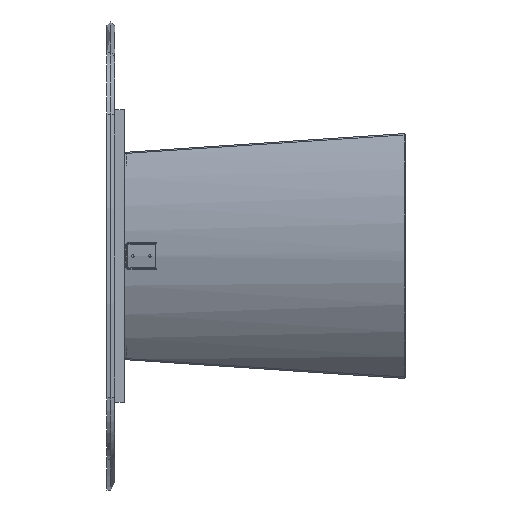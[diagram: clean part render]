
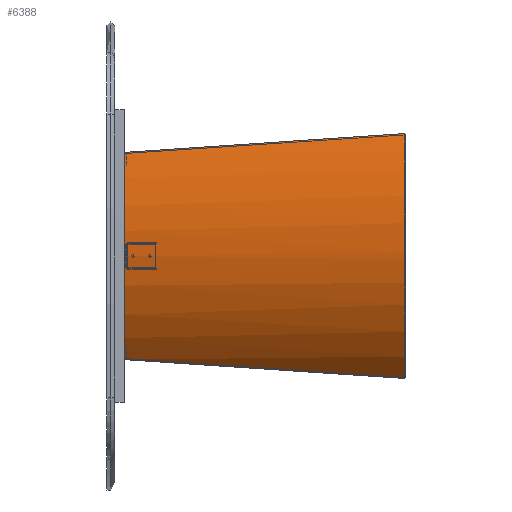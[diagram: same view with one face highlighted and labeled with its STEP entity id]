
A CAD part, left-side view. The second image highlights one B-rep face of the part: STEP entity #6388.
In plain terms, the highlighted cylindrical face has radius 455 mm (diameter 910 mm), a partial arc.
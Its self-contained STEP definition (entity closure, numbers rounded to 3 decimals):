
#45 = CARTESIAN_POINT ( 'NONE',  ( 314.022, 0.906, -129.942 ) ) ;
#71 = CARTESIAN_POINT ( 'NONE',  ( 0., 690.447, -648.367 ) ) ;
#232 = DIRECTION ( 'NONE',  ( 0., -0.968, 0.25 ) ) ;
#301 = ORIENTED_EDGE ( 'NONE', *, *, #1120, .T. ) ;
#322 = CARTESIAN_POINT ( 'NONE',  ( 265.753, 720., -274.535 ) ) ;
#832 =( BOUNDED_CURVE ( )  B_SPLINE_CURVE ( 3, ( #322, #7765, #8633, #8516 ),
 .UNSPECIFIED., .F., .T. ) 
 B_SPLINE_CURVE_WITH_KNOTS ( ( 4, 4 ),
 ( 5.659, 6.283 ),
 .UNSPECIFIED. ) 
 CURVE ( )  GEOMETRIC_REPRESENTATION_ITEM ( )  RATIONAL_B_SPLINE_CURVE ( ( 1., 0.968, 0.968, 1. ) ) 
 REPRESENTATION_ITEM ( '' )  );
#883 = CARTESIAN_POINT ( 'NONE',  ( 314.022, 0.906, -129.942 ) ) ;
#899 = ORIENTED_EDGE ( 'NONE', *, *, #8043, .F. ) ;
#1050 = CYLINDRICAL_SURFACE ( 'NONE', #6962, 455. ) ;
#1062 = CARTESIAN_POINT ( 'NONE',  ( -314.022, 0.906, -129.942 ) ) ;
#1120 = EDGE_CURVE ( 'NONE', #9637, #9467, #4703, .T. ) ;
#1370 =( BOUNDED_CURVE ( )  B_SPLINE_CURVE ( 3, ( #883, #8323, #2736, #5124 ),
 .UNSPECIFIED., .F., .T. ) 
 B_SPLINE_CURVE_WITH_KNOTS ( ( 4, 4 ),
 ( 1.582, 1.719 ),
 .UNSPECIFIED. ) 
 CURVE ( )  GEOMETRIC_REPRESENTATION_ITEM ( )  RATIONAL_B_SPLINE_CURVE ( ( 1., 0.998, 0.998, 1. ) ) 
 REPRESENTATION_ITEM ( '' )  );
#1766 = CARTESIAN_POINT ( 'NONE',  ( 0., -112.631, -440.677 ) ) ;
#1931 = EDGE_CURVE ( 'NONE', #6868, #4155, #8793, .T. ) ;
#2595 = ORIENTED_EDGE ( 'NONE', *, *, #4667, .F. ) ;
#2618 = EDGE_LOOP ( 'NONE', ( #10650, #301, #899, #3280, #2595, #5393, #9632 ) ) ;
#2705 =( BOUNDED_CURVE ( )  B_SPLINE_CURVE ( 3, ( #1062, #6819, #8559, #4380 ),
 .UNSPECIFIED., .F., .T. ) 
 B_SPLINE_CURVE_WITH_KNOTS ( ( 4, 4 ),
 ( 1.582, 1.719 ),
 .UNSPECIFIED. ) 
 CURVE ( )  GEOMETRIC_REPRESENTATION_ITEM ( )  RATIONAL_B_SPLINE_CURVE ( ( 1., 0.998, 0.998, 1. ) ) 
 REPRESENTATION_ITEM ( '' )  );
#2715 = CARTESIAN_POINT ( 'NONE',  ( 265.753, 720., -274.535 ) ) ;
#2736 = CARTESIAN_POINT ( 'NONE',  ( 282.752, 482.074, -225.637 ) ) ;
#2800 = EDGE_CURVE ( 'NONE', #4155, #5675, #1370, .T. ) ;
#2840 = VERTEX_POINT ( 'NONE', #7666 ) ;
#3248 = CARTESIAN_POINT ( 'NONE',  ( -265.753, 720., -274.535 ) ) ;
#3280 = ORIENTED_EDGE ( 'NONE', *, *, #5207, .T. ) ;
#3371 = CARTESIAN_POINT ( 'NONE',  ( 231.469, 1.123, -48.677 ) ) ;
#3496 = CARTESIAN_POINT ( 'NONE',  ( -231.469, 1.123, -48.677 ) ) ;
#3597 =( BOUNDED_CURVE ( )  B_SPLINE_CURVE ( 3, ( #10062, #3496, #6210, #3617 ),
 .UNSPECIFIED., .F., .F. ) 
 B_SPLINE_CURVE_WITH_KNOTS ( ( 4, 4 ),
 ( 5.521, 6.257 ),
 .UNSPECIFIED. ) 
 CURVE ( )  GEOMETRIC_REPRESENTATION_ITEM ( )  RATIONAL_B_SPLINE_CURVE ( ( 1., 0.955, 0.955, 1. ) ) 
 REPRESENTATION_ITEM ( '' )  );
#3617 = CARTESIAN_POINT ( 'NONE',  ( -12.104, 1.251, -0.325 ) ) ;
#3965 = CARTESIAN_POINT ( 'NONE',  ( -12.104, 1.251, -0.325 ) ) ;
#4138 = CARTESIAN_POINT ( 'NONE',  ( 12.104, 1.251, -0.325 ) ) ;
#4155 = VERTEX_POINT ( 'NONE', #6827 ) ;
#4362 = CARTESIAN_POINT ( 'NONE',  ( -265.753, 720., -274.535 ) ) ;
#4380 = CARTESIAN_POINT ( 'NONE',  ( -265.753, 720., -274.535 ) ) ;
#4387 = AXIS2_PLACEMENT_3D ( 'NONE', #1766, #5088, #8397 ) ;
#4667 = EDGE_CURVE ( 'NONE', #6868, #5891, #8202, .T. ) ;
#4703 =( BOUNDED_CURVE ( )  B_SPLINE_CURVE ( 3, ( #7563, #5182, #5021, #4362 ),
 .UNSPECIFIED., .F., .T. ) 
 B_SPLINE_CURVE_WITH_KNOTS ( ( 4, 4 ),
 ( 0., 0.624 ),
 .UNSPECIFIED. ) 
 CURVE ( )  GEOMETRIC_REPRESENTATION_ITEM ( )  RATIONAL_B_SPLINE_CURVE ( ( 1., 0.968, 0.968, 1. ) ) 
 REPRESENTATION_ITEM ( '' )  );
#5021 = CARTESIAN_POINT ( 'NONE',  ( -187.694, 720., -216.518 ) ) ;
#5026 = FACE_OUTER_BOUND ( 'NONE', #2618, .T. ) ;
#5088 = DIRECTION ( 'NONE',  ( 0., -0.968, 0.25 ) ) ;
#5124 = CARTESIAN_POINT ( 'NONE',  ( 265.753, 720., -274.535 ) ) ;
#5136 = DIRECTION ( 'NONE',  ( 0., -0.25, -0.968 ) ) ;
#5182 = CARTESIAN_POINT ( 'NONE',  ( -96.167, 720., -186.04 ) ) ;
#5207 = EDGE_CURVE ( 'NONE', #2840, #5891, #3597, .T. ) ;
#5393 = ORIENTED_EDGE ( 'NONE', *, *, #1931, .T. ) ;
#5675 = VERTEX_POINT ( 'NONE', #2715 ) ;
#5891 = VERTEX_POINT ( 'NONE', #3965 ) ;
#6210 = CARTESIAN_POINT ( 'NONE',  ( -126.14, 1.243, -3.458 ) ) ;
#6388 = ADVANCED_FACE ( 'NONE', ( #5026 ), #1050, .T. ) ;
#6819 = CARTESIAN_POINT ( 'NONE',  ( -298.867, 241.995, -177.363 ) ) ;
#6827 = CARTESIAN_POINT ( 'NONE',  ( 314.022, 0.906, -129.942 ) ) ;
#6868 = VERTEX_POINT ( 'NONE', #9942 ) ;
#6962 = AXIS2_PLACEMENT_3D ( 'NONE', #71, #232, #5136 ) ;
#7563 = CARTESIAN_POINT ( 'NONE',  ( 0., 720., -186.04 ) ) ;
#7666 = CARTESIAN_POINT ( 'NONE',  ( -314.022, 0.906, -129.942 ) ) ;
#7765 = CARTESIAN_POINT ( 'NONE',  ( 187.694, 720., -216.518 ) ) ;
#8043 = EDGE_CURVE ( 'NONE', #2840, #9467, #2705, .T. ) ;
#8202 = CIRCLE ( 'NONE', #4387, 455. ) ;
#8323 = CARTESIAN_POINT ( 'NONE',  ( 298.867, 241.995, -177.363 ) ) ;
#8397 = DIRECTION ( 'NONE',  ( -1., 0., 0. ) ) ;
#8471 = CARTESIAN_POINT ( 'NONE',  ( 126.14, 1.243, -3.458 ) ) ;
#8516 = CARTESIAN_POINT ( 'NONE',  ( 0., 720., -186.04 ) ) ;
#8559 = CARTESIAN_POINT ( 'NONE',  ( -282.752, 482.074, -225.637 ) ) ;
#8633 = CARTESIAN_POINT ( 'NONE',  ( 96.167, 720., -186.04 ) ) ;
#8662 = CARTESIAN_POINT ( 'NONE',  ( 0., 720., -186.04 ) ) ;
#8701 = EDGE_CURVE ( 'NONE', #5675, #9637, #832, .T. ) ;
#8793 =( BOUNDED_CURVE ( )  B_SPLINE_CURVE ( 3, ( #4138, #8471, #3371, #45 ),
 .UNSPECIFIED., .F., .T. ) 
 B_SPLINE_CURVE_WITH_KNOTS ( ( 4, 4 ),
 ( 0.027, 0.762 ),
 .UNSPECIFIED. ) 
 CURVE ( )  GEOMETRIC_REPRESENTATION_ITEM ( )  RATIONAL_B_SPLINE_CURVE ( ( 1., 0.955, 0.955, 1. ) ) 
 REPRESENTATION_ITEM ( '' )  );
#9467 = VERTEX_POINT ( 'NONE', #3248 ) ;
#9632 = ORIENTED_EDGE ( 'NONE', *, *, #2800, .T. ) ;
#9637 = VERTEX_POINT ( 'NONE', #8662 ) ;
#9942 = CARTESIAN_POINT ( 'NONE',  ( 12.104, 1.251, -0.325 ) ) ;
#10062 = CARTESIAN_POINT ( 'NONE',  ( -314.022, 0.906, -129.942 ) ) ;
#10650 = ORIENTED_EDGE ( 'NONE', *, *, #8701, .T. ) ;
